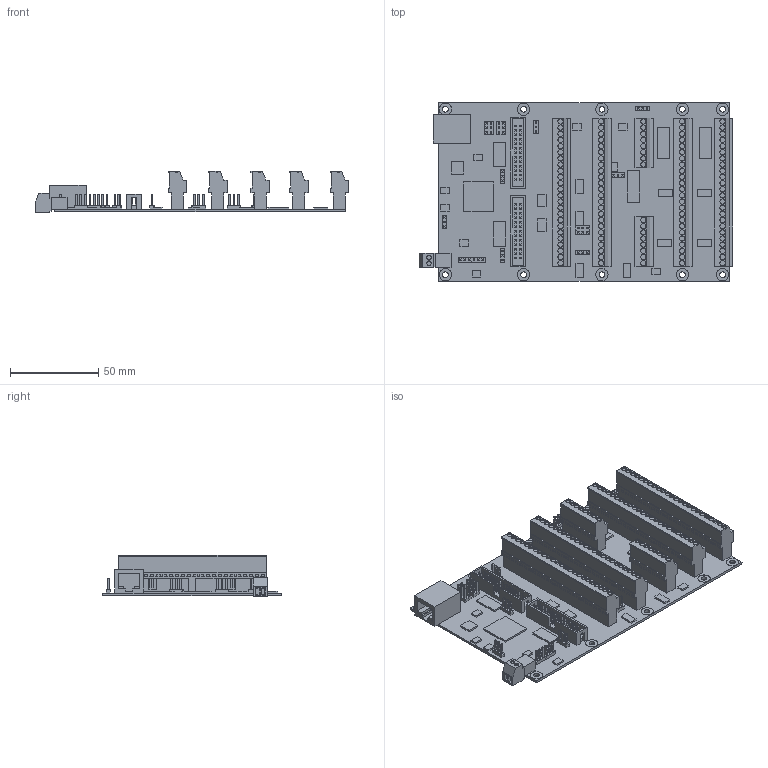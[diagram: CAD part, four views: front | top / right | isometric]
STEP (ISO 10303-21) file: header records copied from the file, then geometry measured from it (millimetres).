
FILE_DESCRIPTION(/* description */ (''),/* implementation_level */ '2;1');
FILE_NAME(/* name */ 'C:\Users\rclan\Documents\Inventor\CNC CASE\MESA 7i76\Mesa 7i76.stp',/* time_stamp */ '2017-09-12T22:31:21+01:00',/* author */ ('rclan'),/* organization */ (''),/* preprocessor_version */ 'ST-DEVELOPER v16.1',/* originating_system */ 'Autodesk Inventor 2016',/* authorisation */ '');
FILE_SCHEMA (('AUTOMOTIVE_DESIGN { 1 0 10303 214 3 1 1 }'));
Products named in the file (1): Mesa 7i76
Bounding box: 178 x 101.6 x 23.5 mm (x, y, z)
Volume: 99599 mm3; surface area: 67475.1 mm2
Topology: 1 solids, 1 shells, 3045 faces, 7594 edges, 4932 vertices
Faces by surface type: plane 2841, cylinder 204
Full cylindrical faces by diameter (mm): 2.5 x2, 3 x112, 3.2 x10, 7 x19
Entity records: 90934 total; most frequent: CARTESIAN_POINT 15409, ORIENTED_EDGE 14882, DIRECTION 13941, EDGE_CURVE 7441, LINE 7033, VECTOR 7033, VERTEX_POINT 4922, EDGE_LOOP 3597
